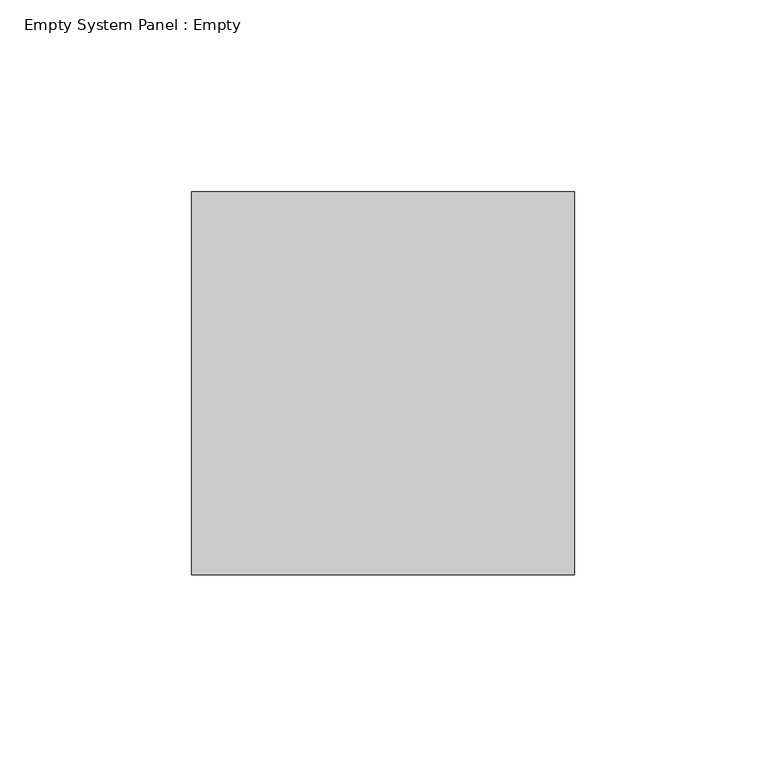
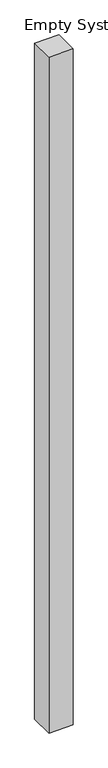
"""IFC4 building model written with IfcOpenShell, lengths in millimetres: plate geometry, Empty System Panel : Empty."""

from ifc_helpers import new_model, si_unit, origin, origin_with_axes, place, context, project, spatial, polyline, outline, extrude, source, transform, mapped, element, save


def empty_system_panel_empty_147de6ce(model_context):
    return source(origin(), model_context, "Body", "SweptSolid", [
        extrude(outline(polyline([(50.0, -50.0), (-50.0, -50.0), (-50.0, 50.0), (50.0, 50.0), (50.0, -50.0)])), origin_with_axes(), (0.0, 0.0, 1.0), 2925.0),
    ])


if __name__ == "__main__":
    model = new_model("IFC4")
    model_context = context("Model", 3, world=origin())
    ifc_project = project(units=[si_unit("LENGTHUNIT", "METRE", prefix="MILLI")], contexts=[model_context])
    site = spatial("IfcSite", under=ifc_project)
    building = spatial("IfcBuilding", under=site)
    placement = place(None, origin())
    empty_system_panel_empty_shape = empty_system_panel_empty_147de6ce(model_context)
    element("IfcPlate", 1, ObjectType="Empty System Panel : Empty", at=placement, inside=building, context=model_context, shape_type="MappedRepresentation", body=[
        mapped(empty_system_panel_empty_shape, transform((0.0, 0.0, 0.0), x_axis=(1.0, 0.0, 0.0), y_axis=(0.0, 1.0, 0.0), z_axis=(0.0, 0.0, 1.0))),
    ])
    save(model, "model.ifc")
